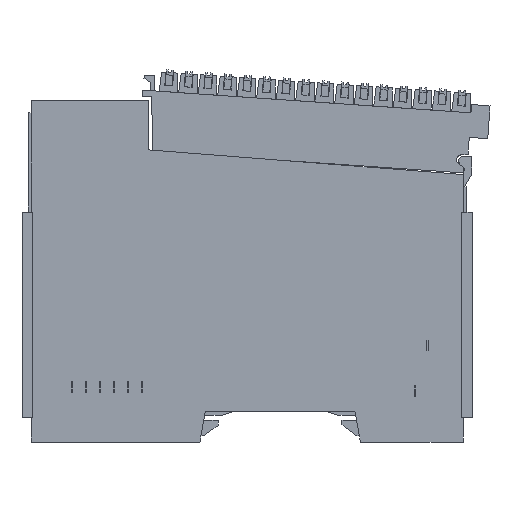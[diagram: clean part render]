
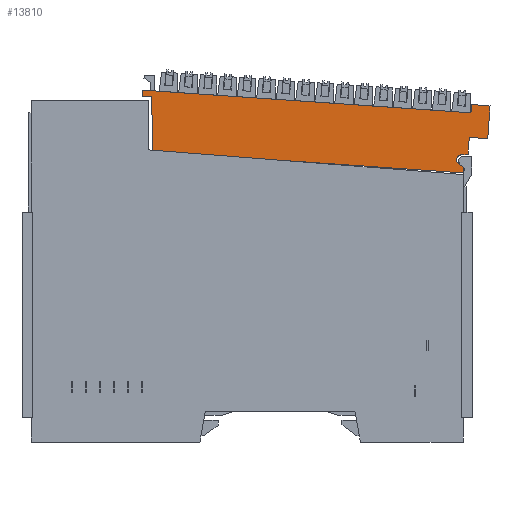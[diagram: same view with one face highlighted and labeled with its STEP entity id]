
A CAD part, left-side view. The second image highlights one B-rep face of the part: STEP entity #13810.
In plain terms, the highlighted planar face has unit normal (-1, 0, 0) as drawn and (0, 0, 1) by its records, which use the part's own axes.
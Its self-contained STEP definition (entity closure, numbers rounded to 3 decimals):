
#8072=DIRECTION('',(0.998,-0.069,0.));
#8073=VECTOR('',#8072,79.95);
#8074=CARTESIAN_POINT('',(-77.899,20.117,13.1));
#8075=LINE('',#8074,#8073);
#8076=DIRECTION('',(0.069,0.998,0.));
#8077=VECTOR('',#8076,2.);
#8078=CARTESIAN_POINT('',(1.861,14.606,13.1));
#8079=LINE('',#8078,#8077);
#8080=DIRECTION('',(0.998,-0.069,0.));
#8081=VECTOR('',#8080,4.5);
#8082=CARTESIAN_POINT('',(1.999,16.602,13.1));
#8083=LINE('',#8082,#8081);
#8084=DIRECTION('',(-0.069,-0.998,0.));
#8085=VECTOR('',#8084,8.);
#8086=CARTESIAN_POINT('',(6.488,16.292,13.1));
#8087=LINE('',#8086,#8085);
#8088=DIRECTION('',(-0.998,0.069,0.));
#8089=VECTOR('',#8088,4.5);
#8090=CARTESIAN_POINT('',(5.937,8.311,13.1));
#8091=LINE('',#8090,#8089);
#8092=DIRECTION('',(-0.069,-0.998,0.));
#8093=VECTOR('',#8092,4.07);
#8094=CARTESIAN_POINT('',(1.448,8.621,13.1));
#8095=LINE('',#8094,#8093);
#8096=DIRECTION('',(-0.994,-0.109,0.));
#8097=VECTOR('',#8096,1.759);
#8098=CARTESIAN_POINT('',(1.167,4.56,13.1));
#8099=LINE('',#8098,#8097);
#8100=CARTESIAN_POINT('',(-0.451,3.176,13.1));
#8101=DIRECTION('',(0.,0.,1.));
#8102=DIRECTION('',(-0.109,0.994,0.));
#8103=AXIS2_PLACEMENT_3D('',#8100,#8101,#8102);
#8105=CARTESIAN_POINT('',(-0.451,3.176,13.1));
#8106=DIRECTION('',(0.,0.,1.));
#8107=DIRECTION('',(-1.,0.,0.));
#8108=AXIS2_PLACEMENT_3D('',#8105,#8106,#8107);
#8110=DIRECTION('',(0.83,-0.558,0.));
#8111=VECTOR('',#8110,1.465);
#8112=CARTESIAN_POINT('',(-1.121,2.18,13.1));
#8113=LINE('',#8112,#8111);
#8114=DIRECTION('',(-0.069,-0.998,0.));
#8115=VECTOR('',#8114,1.365);
#8116=CARTESIAN_POINT('',(0.094,1.362,13.1));
#8117=LINE('',#8116,#8115);
#8118=DIRECTION('',(-0.998,0.069,0.));
#8119=VECTOR('',#8118,75.555);
#8120=CARTESIAN_POINT('',(0.,0.,13.1));
#8121=LINE('',#8120,#8119);
#8122=DIRECTION('',(-0.027,1.,0.));
#8123=VECTOR('',#8122,13.261);
#8124=CARTESIAN_POINT('',(-75.375,5.207,13.1));
#8125=LINE('',#8124,#8123);
#8126=DIRECTION('',(-0.998,0.069,0.));
#8127=VECTOR('',#8126,2.274);
#8128=CARTESIAN_POINT('',(-75.734,18.464,13.1));
#8129=LINE('',#8128,#8127);
#8130=DIRECTION('',(0.069,0.998,0.));
#8131=VECTOR('',#8130,1.5);
#8132=CARTESIAN_POINT('',(-78.002,18.62,13.1));
#8133=LINE('',#8132,#8131);
#12148=CARTESIAN_POINT('',(1.861,14.606,13.1));
#12149=VERTEX_POINT('',#12148);
#12150=CARTESIAN_POINT('',(-77.899,20.117,13.1));
#12151=VERTEX_POINT('',#12150);
#12308=CARTESIAN_POINT('',(-78.002,18.62,13.1));
#12309=VERTEX_POINT('',#12308);
#12310=CARTESIAN_POINT('',(-75.734,18.464,13.1));
#12311=VERTEX_POINT('',#12310);
#12312=CARTESIAN_POINT('',(1.999,16.602,13.1));
#12313=VERTEX_POINT('',#12312);
#12314=CARTESIAN_POINT('',(6.488,16.292,13.1));
#12315=VERTEX_POINT('',#12314);
#12316=CARTESIAN_POINT('',(5.937,8.311,13.1));
#12317=VERTEX_POINT('',#12316);
#12318=CARTESIAN_POINT('',(1.448,8.621,13.1));
#12319=VERTEX_POINT('',#12318);
#12320=CARTESIAN_POINT('',(1.167,4.56,13.1));
#12321=VERTEX_POINT('',#12320);
#12322=CARTESIAN_POINT('',(-0.582,4.369,13.1));
#12323=VERTEX_POINT('',#12322);
#12324=CARTESIAN_POINT('',(-1.651,3.176,13.1));
#12325=CARTESIAN_POINT('',(-1.121,2.18,13.1));
#12326=VERTEX_POINT('',#12324);
#12327=VERTEX_POINT('',#12325);
#12328=CARTESIAN_POINT('',(0.094,1.362,13.1));
#12329=VERTEX_POINT('',#12328);
#12330=CARTESIAN_POINT('',(0.,0.,13.1));
#12331=VERTEX_POINT('',#12330);
#12332=CARTESIAN_POINT('',(-75.375,5.207,13.1));
#12333=VERTEX_POINT('',#12332);
#13776=CARTESIAN_POINT('',(0.,0.,13.1));
#13777=DIRECTION('',(0.,0.,1.));
#13778=DIRECTION('',(1.,0.,0.));
#13779=AXIS2_PLACEMENT_3D('',#13776,#13777,#13778);
#13780=PLANE('',#13779);
#13781=ORIENTED_EDGE('',*,*,#13556,.T.);
#13783=ORIENTED_EDGE('',*,*,#13782,.T.);
#13785=ORIENTED_EDGE('',*,*,#13784,.T.);
#13787=ORIENTED_EDGE('',*,*,#13786,.T.);
#13789=ORIENTED_EDGE('',*,*,#13788,.T.);
#13791=ORIENTED_EDGE('',*,*,#13790,.T.);
#13793=ORIENTED_EDGE('',*,*,#13792,.T.);
#13795=ORIENTED_EDGE('',*,*,#13794,.T.);
#13797=ORIENTED_EDGE('',*,*,#13796,.T.);
#13799=ORIENTED_EDGE('',*,*,#13798,.T.);
#13801=ORIENTED_EDGE('',*,*,#13800,.T.);
#13803=ORIENTED_EDGE('',*,*,#13802,.T.);
#13805=ORIENTED_EDGE('',*,*,#13804,.T.);
#13806=ORIENTED_EDGE('',*,*,#13756,.T.);
#13807=ORIENTED_EDGE('',*,*,#13770,.T.);
#13808=EDGE_LOOP('',(#13781,#13783,#13785,#13787,#13789,#13791,#13793,#13795,
#13797,#13799,#13801,#13803,#13805,#13806,#13807));
#13809=FACE_OUTER_BOUND('',#13808,.F.);
#13810=ADVANCED_FACE('',(#13809),#13780,.T.);
#8104=CIRCLE('',#8103,1.2);
#8109=CIRCLE('',#8108,1.2);
#13556=EDGE_CURVE('',#12151,#12149,#8075,.T.);
#13756=EDGE_CURVE('',#12311,#12309,#8129,.T.);
#13770=EDGE_CURVE('',#12309,#12151,#8133,.T.);
#13782=EDGE_CURVE('',#12149,#12313,#8079,.T.);
#13784=EDGE_CURVE('',#12313,#12315,#8083,.T.);
#13786=EDGE_CURVE('',#12315,#12317,#8087,.T.);
#13788=EDGE_CURVE('',#12317,#12319,#8091,.T.);
#13790=EDGE_CURVE('',#12319,#12321,#8095,.T.);
#13792=EDGE_CURVE('',#12321,#12323,#8099,.T.);
#13794=EDGE_CURVE('',#12323,#12326,#8104,.T.);
#13796=EDGE_CURVE('',#12326,#12327,#8109,.T.);
#13798=EDGE_CURVE('',#12327,#12329,#8113,.T.);
#13800=EDGE_CURVE('',#12329,#12331,#8117,.T.);
#13802=EDGE_CURVE('',#12331,#12333,#8121,.T.);
#13804=EDGE_CURVE('',#12333,#12311,#8125,.T.);
